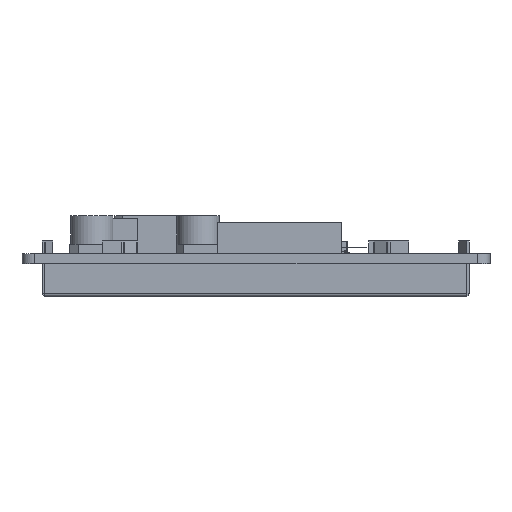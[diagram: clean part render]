
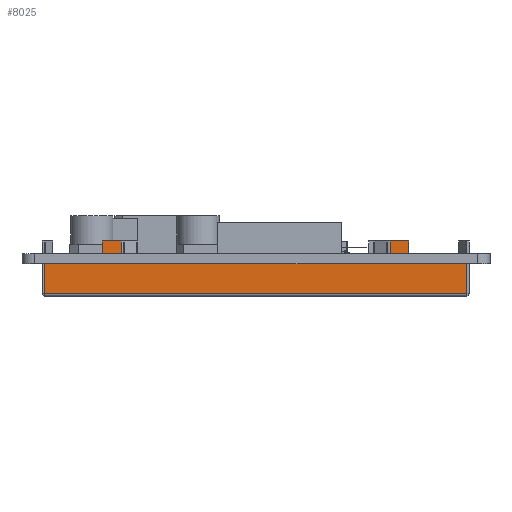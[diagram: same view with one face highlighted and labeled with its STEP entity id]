
A CAD part, left-side view. The second image highlights one B-rep face of the part: STEP entity #8025.
In plain terms, the highlighted planar face has unit normal (-1, 0, 0).
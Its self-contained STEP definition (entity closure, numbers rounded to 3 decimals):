
#3496=PLANE('',#51222);
#5737=FACE_OUTER_BOUND('',#10935,.T.);
#8025=ADVANCED_FACE('',(#5737),#3496,.F.);
#10935=EDGE_LOOP('',(#23413,#23414,#23415,#23416,#23417,#23418,#23419,#23420,
#23421,#23422,#23423,#23424,#23425,#23426,#23427,#23428));
#23413=ORIENTED_EDGE('',*,*,#34778,.T.);
#23414=ORIENTED_EDGE('',*,*,#34779,.F.);
#23415=ORIENTED_EDGE('',*,*,#34780,.F.);
#23416=ORIENTED_EDGE('',*,*,#34781,.T.);
#23417=ORIENTED_EDGE('',*,*,#34782,.T.);
#23418=ORIENTED_EDGE('',*,*,#34783,.T.);
#23419=ORIENTED_EDGE('',*,*,#34776,.T.);
#23420=ORIENTED_EDGE('',*,*,#34784,.F.);
#23421=ORIENTED_EDGE('',*,*,#34785,.T.);
#23422=ORIENTED_EDGE('',*,*,#34786,.F.);
#23423=ORIENTED_EDGE('',*,*,#34787,.F.);
#23424=ORIENTED_EDGE('',*,*,#34788,.T.);
#23425=ORIENTED_EDGE('',*,*,#34770,.T.);
#23426=ORIENTED_EDGE('',*,*,#34789,.F.);
#23427=ORIENTED_EDGE('',*,*,#34790,.F.);
#23428=ORIENTED_EDGE('',*,*,#34791,.T.);
#28328=VERTEX_POINT('',#76442);
#28329=VERTEX_POINT('',#76443);
#28334=VERTEX_POINT('',#76454);
#28335=VERTEX_POINT('',#76456);
#28336=VERTEX_POINT('',#76460);
#28337=VERTEX_POINT('',#76461);
#28338=VERTEX_POINT('',#76463);
#28339=VERTEX_POINT('',#76465);
#28340=VERTEX_POINT('',#76467);
#28341=VERTEX_POINT('',#76469);
#28342=VERTEX_POINT('',#76472);
#28343=VERTEX_POINT('',#76474);
#28344=VERTEX_POINT('',#76476);
#28345=VERTEX_POINT('',#76478);
#28346=VERTEX_POINT('',#76481);
#28347=VERTEX_POINT('',#76483);
#34770=EDGE_CURVE('',#28328,#28329,#41661,.T.);
#34776=EDGE_CURVE('',#28335,#28334,#41667,.T.);
#34778=EDGE_CURVE('',#28336,#28337,#41669,.T.);
#34779=EDGE_CURVE('',#28338,#28337,#41670,.T.);
#34780=EDGE_CURVE('',#28339,#28338,#41671,.T.);
#34781=EDGE_CURVE('',#28339,#28340,#41672,.T.);
#34782=EDGE_CURVE('',#28340,#28341,#41673,.T.);
#34783=EDGE_CURVE('',#28341,#28335,#41674,.T.);
#34784=EDGE_CURVE('',#28342,#28334,#41675,.T.);
#34785=EDGE_CURVE('',#28342,#28343,#41676,.T.);
#34786=EDGE_CURVE('',#28344,#28343,#41677,.T.);
#34787=EDGE_CURVE('',#28345,#28344,#41678,.T.);
#34788=EDGE_CURVE('',#28345,#28328,#41679,.T.);
#34789=EDGE_CURVE('',#28346,#28329,#41680,.T.);
#34790=EDGE_CURVE('',#28347,#28346,#41681,.T.);
#34791=EDGE_CURVE('',#28347,#28336,#41682,.T.);
#41661=LINE('',#76441,#47393);
#41667=LINE('',#76455,#47399);
#41669=LINE('',#76459,#47401);
#41670=LINE('',#76462,#47402);
#41671=LINE('',#76464,#47403);
#41672=LINE('',#76466,#47404);
#41673=LINE('',#76468,#47405);
#41674=LINE('',#76470,#47406);
#41675=LINE('',#76471,#47407);
#41676=LINE('',#76473,#47408);
#41677=LINE('',#76475,#47409);
#41678=LINE('',#76477,#47410);
#41679=LINE('',#76479,#47411);
#41680=LINE('',#76480,#47412);
#41681=LINE('',#76482,#47413);
#41682=LINE('',#76484,#47414);
#47393=VECTOR('',#62654,1.);
#47399=VECTOR('',#62662,1.);
#47401=VECTOR('',#62666,1.);
#47402=VECTOR('',#62667,1.);
#47403=VECTOR('',#62668,1.);
#47404=VECTOR('',#62669,1.);
#47405=VECTOR('',#62670,1.);
#47406=VECTOR('',#62671,1.);
#47407=VECTOR('',#62672,1.);
#47408=VECTOR('',#62673,1.);
#47409=VECTOR('',#62674,1.);
#47410=VECTOR('',#62675,1.);
#47411=VECTOR('',#62676,1.);
#47412=VECTOR('',#62677,1.);
#47413=VECTOR('',#62678,1.);
#47414=VECTOR('',#62679,1.);
#51222=AXIS2_PLACEMENT_3D('',#76485,#62680,#62681);
#62654=DIRECTION('',(0.,1.,0.));
#62662=DIRECTION('',(0.,1.,0.));
#62666=DIRECTION('',(0.,1.,0.));
#62667=DIRECTION('',(0.,0.,-1.));
#62668=DIRECTION('',(0.,-1.,0.));
#62669=DIRECTION('',(0.,0.,-1.));
#62670=DIRECTION('',(0.,1.,0.));
#62671=DIRECTION('',(0.,0.,-1.));
#62672=DIRECTION('',(0.,0.,-1.));
#62673=DIRECTION('',(0.,-1.,0.));
#62674=DIRECTION('',(0.,0.,-1.));
#62675=DIRECTION('',(0.,-1.,0.));
#62676=DIRECTION('',(0.,0.,-1.));
#62677=DIRECTION('',(0.,0.,1.));
#62678=DIRECTION('',(0.,1.,0.));
#62679=DIRECTION('',(0.,0.,1.));
#62680=DIRECTION('',(1.,0.,0.));
#62681=DIRECTION('',(0.,1.,0.));
#76441=CARTESIAN_POINT('',(67.65,-14.395,-1.6));
#76442=CARTESIAN_POINT('',(67.65,43.765,-1.6));
#76443=CARTESIAN_POINT('',(67.65,53.005,-1.6));
#76454=CARTESIAN_POINT('',(67.65,40.765,-1.6));
#76455=CARTESIAN_POINT('',(67.65,-14.395,-1.6));
#76456=CARTESIAN_POINT('',(67.65,-2.155,-1.6));
#76459=CARTESIAN_POINT('',(67.65,-14.395,-1.6));
#76460=CARTESIAN_POINT('',(67.65,-14.395,-1.6));
#76461=CARTESIAN_POINT('',(67.65,-5.155,-1.6));
#76462=CARTESIAN_POINT('',(67.65,-5.155,0.));
#76463=CARTESIAN_POINT('',(67.65,-5.155,2.));
#76464=CARTESIAN_POINT('',(67.65,-2.19,2.));
#76465=CARTESIAN_POINT('',(67.65,-2.19,2.));
#76466=CARTESIAN_POINT('',(67.65,-2.19,2.));
#76467=CARTESIAN_POINT('',(67.65,-2.19,0.));
#76468=CARTESIAN_POINT('',(67.65,-5.155,0.));
#76469=CARTESIAN_POINT('',(67.65,-2.155,0.));
#76470=CARTESIAN_POINT('',(67.65,-2.155,0.));
#76471=CARTESIAN_POINT('',(67.65,40.765,0.));
#76472=CARTESIAN_POINT('',(67.65,40.765,0.));
#76473=CARTESIAN_POINT('',(67.65,43.765,0.));
#76474=CARTESIAN_POINT('',(67.65,40.754,0.));
#76475=CARTESIAN_POINT('',(67.65,40.754,2.));
#76476=CARTESIAN_POINT('',(67.65,40.754,2.));
#76477=CARTESIAN_POINT('',(67.65,43.765,2.));
#76478=CARTESIAN_POINT('',(67.65,43.765,2.));
#76479=CARTESIAN_POINT('',(67.65,43.765,0.));
#76480=CARTESIAN_POINT('',(67.65,53.005,-6.4));
#76481=CARTESIAN_POINT('',(67.65,53.005,-6.4));
#76482=CARTESIAN_POINT('',(67.65,-14.395,-6.4));
#76483=CARTESIAN_POINT('',(67.65,-14.395,-6.4));
#76484=CARTESIAN_POINT('',(67.65,-14.395,-6.4));
#76485=CARTESIAN_POINT('',(67.65,-14.395,-6.4));
